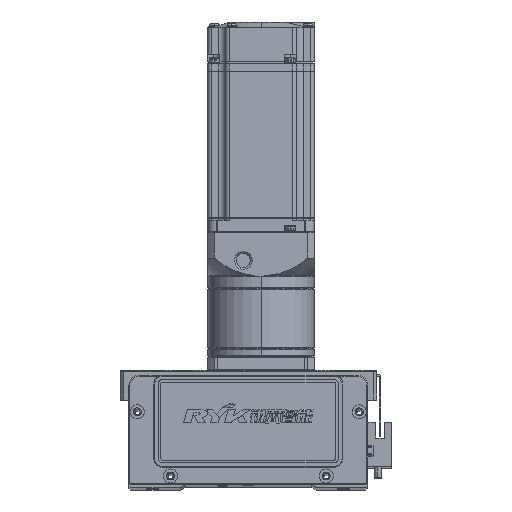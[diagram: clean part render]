
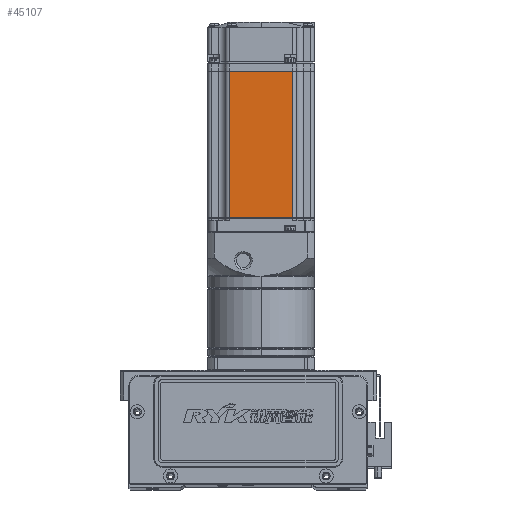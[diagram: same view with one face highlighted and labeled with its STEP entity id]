
A CAD part, top view. The second image highlights one B-rep face of the part: STEP entity #45107.
In plain terms, the highlighted planar face has unit normal (0, 0, 1).
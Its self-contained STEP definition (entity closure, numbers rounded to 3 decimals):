
#2259 = VECTOR ( 'NONE', #21206, 1000. ) ;
#2718 = ORIENTED_EDGE ( 'NONE', *, *, #22408, .F. ) ;
#5591 = ORIENTED_EDGE ( 'NONE', *, *, #7310, .T. ) ;
#6378 = CARTESIAN_POINT ( 'NONE',  ( -7.75, 18., 30. ) ) ;
#7114 = DIRECTION ( 'NONE',  ( 1., 0., 0. ) ) ;
#7310 = EDGE_CURVE ( 'NONE', #10498, #54522, #35860, .T. ) ;
#10498 = VERTEX_POINT ( 'NONE', #6378 ) ;
#11598 = EDGE_CURVE ( 'NONE', #54522, #50047, #53354, .T. ) ;
#12334 = ORIENTED_EDGE ( 'NONE', *, *, #64914, .F. ) ;
#14732 = CARTESIAN_POINT ( 'NONE',  ( -6.5, -18., 30. ) ) ;
#14858 = VECTOR ( 'NONE', #57210, 1000. ) ;
#15845 = EDGE_LOOP ( 'NONE', ( #12334, #5591, #61321, #2718 ) ) ;
#19022 = CARTESIAN_POINT ( 'NONE',  ( -7.75, -18., 30. ) ) ;
#21180 = VERTEX_POINT ( 'NONE', #19022 ) ;
#21206 = DIRECTION ( 'NONE',  ( 0., -1., 0. ) ) ;
#21334 = VECTOR ( 'NONE', #61831, 1000. ) ;
#22408 = EDGE_CURVE ( 'NONE', #21180, #50047, #48899, .T. ) ;
#23794 = CARTESIAN_POINT ( 'NONE',  ( -7.75, 0., 30. ) ) ;
#26747 = AXIS2_PLACEMENT_3D ( 'NONE', #62850, #43305, #7114 ) ;
#34115 = LINE ( 'NONE', #23794, #44659 ) ;
#35860 = LINE ( 'NONE', #41544, #14858 ) ;
#41544 = CARTESIAN_POINT ( 'NONE',  ( -6.5, 18., 30. ) ) ;
#41839 = CARTESIAN_POINT ( 'NONE',  ( -90.45, 0., 30. ) ) ;
#43305 = DIRECTION ( 'NONE',  ( 0., 0., 1. ) ) ;
#44659 = VECTOR ( 'NONE', #54214, 1000. ) ;
#45107 = ADVANCED_FACE ( 'NONE', ( #66104 ), #52400, .T. ) ;
#48899 = LINE ( 'NONE', #14732, #21334 ) ;
#50047 = VERTEX_POINT ( 'NONE', #50615 ) ;
#50615 = CARTESIAN_POINT ( 'NONE',  ( -90.45, -18., 30. ) ) ;
#52391 = CARTESIAN_POINT ( 'NONE',  ( -90.45, 18., 30. ) ) ;
#52400 = PLANE ( 'NONE',  #26747 ) ;
#53354 = LINE ( 'NONE', #41839, #2259 ) ;
#54214 = DIRECTION ( 'NONE',  ( 0., -1., 0. ) ) ;
#54522 = VERTEX_POINT ( 'NONE', #52391 ) ;
#57210 = DIRECTION ( 'NONE',  ( -1., 0., 0. ) ) ;
#61321 = ORIENTED_EDGE ( 'NONE', *, *, #11598, .T. ) ;
#61831 = DIRECTION ( 'NONE',  ( -1., 0., 0. ) ) ;
#62850 = CARTESIAN_POINT ( 'NONE',  ( -6.5, -25., 30. ) ) ;
#64914 = EDGE_CURVE ( 'NONE', #10498, #21180, #34115, .T. ) ;
#66104 = FACE_OUTER_BOUND ( 'NONE', #15845, .T. ) ;
